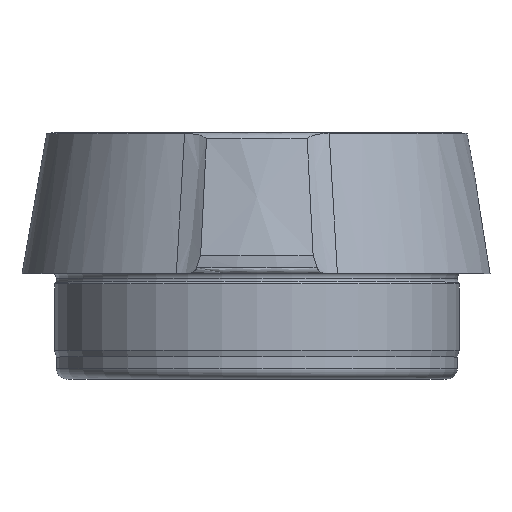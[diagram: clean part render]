
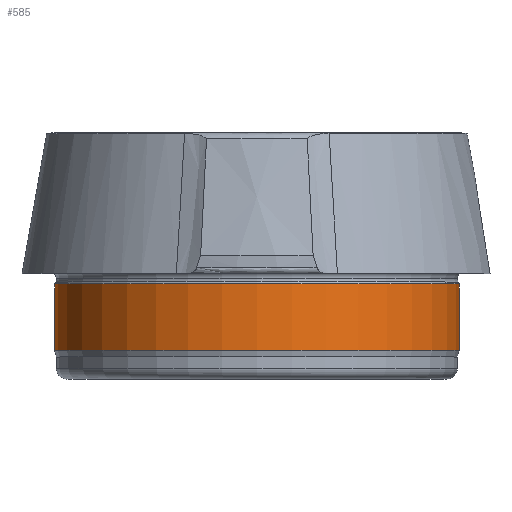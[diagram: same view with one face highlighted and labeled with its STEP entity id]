
A CAD part, top view. The second image highlights one B-rep face of the part: STEP entity #585.
In plain terms, the highlighted cylindrical face has radius 11.5 mm (diameter 23 mm), a partial arc.
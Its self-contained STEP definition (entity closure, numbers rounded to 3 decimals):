
#34 = DIRECTION ( 'NONE',  ( 0., 1., 0. ) ) ;
#147 = CARTESIAN_POINT ( 'NONE',  ( 0., 5.41, 0. ) ) ;
#177 = CIRCLE ( 'NONE', #790, 11.5 ) ;
#198 = CARTESIAN_POINT ( 'NONE',  ( 11.5, -100., 0. ) ) ;
#216 = VERTEX_POINT ( 'NONE', #383 ) ;
#320 = CARTESIAN_POINT ( 'NONE',  ( 0., 1.627, 0. ) ) ;
#322 = DIRECTION ( 'NONE',  ( 0., 1., 0. ) ) ;
#326 = DIRECTION ( 'NONE',  ( -1., 0., 0. ) ) ;
#365 = LINE ( 'NONE', #198, #1489 ) ;
#383 = CARTESIAN_POINT ( 'NONE',  ( 11.5, 1.627, 0. ) ) ;
#388 = VERTEX_POINT ( 'NONE', #656 ) ;
#405 = CIRCLE ( 'NONE', #864, 11.5 ) ;
#471 = EDGE_LOOP ( 'NONE', ( #542, #852, #1365, #1266 ) ) ;
#542 = ORIENTED_EDGE ( 'NONE', *, *, #1464, .T. ) ;
#558 = CARTESIAN_POINT ( 'NONE',  ( 11.5, 5.41, 0. ) ) ;
#585 = ADVANCED_FACE ( 'NONE', ( #714 ), #672, .T. ) ;
#586 = AXIS2_PLACEMENT_3D ( 'NONE', #1220, #1073, #938 ) ;
#620 = EDGE_CURVE ( 'NONE', #831, #799, #405, .T. ) ;
#656 = CARTESIAN_POINT ( 'NONE',  ( -11.5, 1.627, 0. ) ) ;
#672 = CYLINDRICAL_SURFACE ( 'NONE', #586, 11.5 ) ;
#714 = FACE_OUTER_BOUND ( 'NONE', #471, .T. ) ;
#790 = AXIS2_PLACEMENT_3D ( 'NONE', #320, #322, #326 ) ;
#799 = VERTEX_POINT ( 'NONE', #558 ) ;
#831 = VERTEX_POINT ( 'NONE', #1226 ) ;
#841 = VECTOR ( 'NONE', #926, 1000. ) ;
#852 = ORIENTED_EDGE ( 'NONE', *, *, #1213, .T. ) ;
#864 = AXIS2_PLACEMENT_3D ( 'NONE', #147, #1528, #1327 ) ;
#926 = DIRECTION ( 'NONE',  ( 0., 1., 0. ) ) ;
#938 = DIRECTION ( 'NONE',  ( -1., 0., 0. ) ) ;
#1064 = CARTESIAN_POINT ( 'NONE',  ( -11.5, -100., 0. ) ) ;
#1073 = DIRECTION ( 'NONE',  ( 0., 1., 0. ) ) ;
#1089 = EDGE_CURVE ( 'NONE', #388, #831, #1209, .T. ) ;
#1209 = LINE ( 'NONE', #1064, #841 ) ;
#1213 = EDGE_CURVE ( 'NONE', #216, #799, #365, .T. ) ;
#1220 = CARTESIAN_POINT ( 'NONE',  ( 0., -100., 0. ) ) ;
#1226 = CARTESIAN_POINT ( 'NONE',  ( -11.5, 5.41, 0. ) ) ;
#1266 = ORIENTED_EDGE ( 'NONE', *, *, #1089, .F. ) ;
#1327 = DIRECTION ( 'NONE',  ( 1., 0., 0. ) ) ;
#1365 = ORIENTED_EDGE ( 'NONE', *, *, #620, .F. ) ;
#1464 = EDGE_CURVE ( 'NONE', #388, #216, #177, .T. ) ;
#1489 = VECTOR ( 'NONE', #34, 1000. ) ;
#1528 = DIRECTION ( 'NONE',  ( 0., 1., 0. ) ) ;
